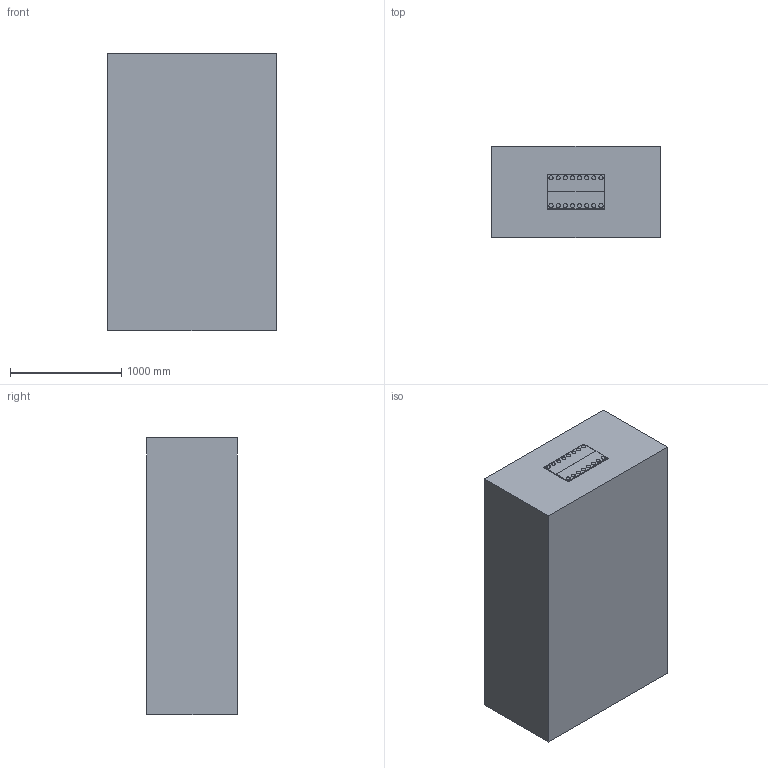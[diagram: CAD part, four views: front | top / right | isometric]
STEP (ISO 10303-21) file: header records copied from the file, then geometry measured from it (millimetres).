
FILE_DESCRIPTION(/* description */ (''),/* implementation_level */ '2;1');
FILE_NAME(/* name */ '8-8-8-6-6-5 WBL.step',/* time_stamp */ '2024-09-30T15:11:59-07:00',/* author */ (''),/* organization */ (''),/* preprocessor_version */ 'ST-DEVELOPER v20',/* originating_system */ 'Autodesk Translation Framework v13.20.0.188',/* authorisation */ '');
FILE_SCHEMA (('AUTOMOTIVE_DESIGN { 1 0 10303 214 3 1 1 }'));
Length unit declared in the file: millimetre
Products named in the file (3): 8-8-8-6-6-5 WBL; Component1; 6RowBaseGrateSketch v4
Assembly tree (2 placements, depth 2):
  8-8-8-6-6-5 WBL
    Component1
    6RowBaseGrateSketch v4
Bounding box: 1518.35 x 817.75 x 2500 mm (x, y, z)
Volume: 3094574094.3 mm3; surface area: 15245636.5 mm2
Topology: 1 solids, 1 shells, 1094 faces, 3470 edges, 2308 vertices
Faces by surface type: plane 1069, cylinder 22, bspline 3
Full cylindrical faces by diameter (mm): 38 x16
Entity records: 41871 total; most frequent: CARTESIAN_POINT 10227, ORIENTED_EDGE 6940, DIRECTION 5690, EDGE_CURVE 3470, LINE 3418, VECTOR 3418, VERTEX_POINT 2308, EDGE_LOOP 1476
